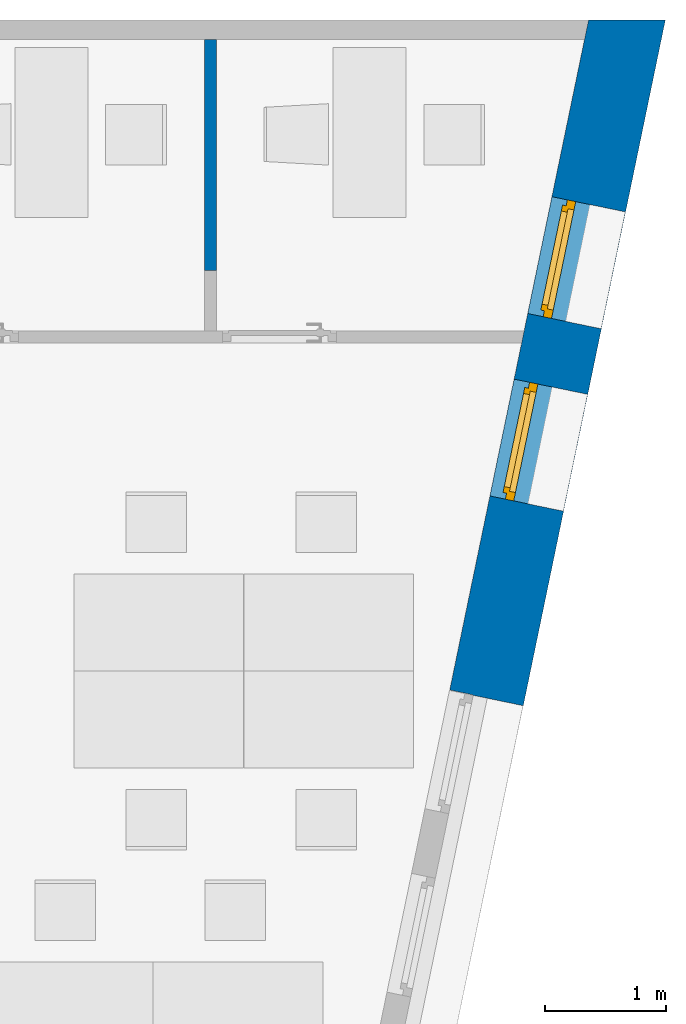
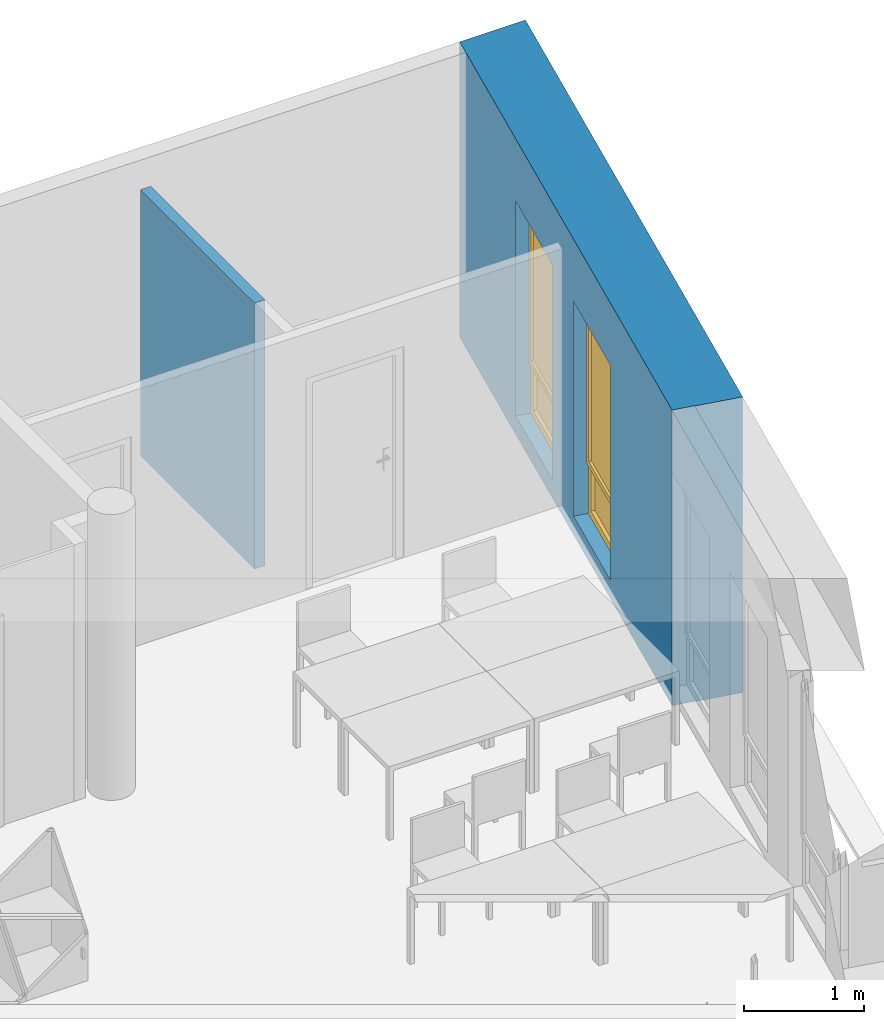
"""IFC4 building model written with IfcOpenShell, lengths in metres."""

from ifc_helpers import new_model, entity, si_unit, converted_unit, derived_unit, frame, frame_2d, origin, origin_with_axes, place, context, subcontext, project, spatial, polyline, rectangle, outline, extrude, closed_shell, open_shell, surface_model, source, transform, mapped, material, layer, layer_set, layer_usage, type_object, element, fill, save


model = new_model("IFC4")

# Units and contexts
model_context = context("Model", 3, precision=1e-05, world=origin())
body_context = subcontext(model_context, "Body", "Model", "MODEL_VIEW")
ifc_project = project(units=[si_unit("LENGTHUNIT", "METRE"), si_unit("AREAUNIT", "SQUARE_METRE"), si_unit("VOLUMEUNIT", "CUBIC_METRE"), si_unit("MASSUNIT", "GRAM", prefix="KILO"), converted_unit("PLANEANGLEUNIT", "DEGREE", entity("IfcPlaneAngleMeasure", 0.0174532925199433), si_unit("PLANEANGLEUNIT", "RADIAN"), dimensions=[0, 0, 0, 0, 0, 0, 0]), derived_unit("THERMALTRANSMITTANCEUNIT", [(si_unit("POWERUNIT", "WATT"), 1), (si_unit("THERMODYNAMICTEMPERATUREUNIT", "KELVIN"), -1), (si_unit("LENGTHUNIT", "METRE"), -2)]), derived_unit("VOLUMETRICFLOWRATEUNIT", [(si_unit("LENGTHUNIT", "METRE"), 3), (converted_unit("TIMEUNIT", "hour", entity("IfcTimeMeasure", 3600.0), si_unit("TIMEUNIT", "SECOND"), dimensions=[0, 0, 1, 0, 0, 0, 0]), -1), (si_unit("LENGTHUNIT", "METRE"), -1)])], contexts=[model_context])

# Building, storeys
building_placement = place(None, origin())
building = spatial("IfcBuilding", under=ifc_project, at=building_placement, Name="HABITATGE PLURIFAMILIAR", CompositionType="ELEMENT")
storey_1_placement = place(building_placement, frame((0.0, 0.0, 18.29)))
storey_1 = spatial("IfcBuildingStorey", under=building, at=storey_1_placement, Name="PLANTA CINQUENA", CompositionType="ELEMENT", Elevation=18.29)
storey_2_placement = place(storey_1_placement, frame((0.0, 0.0, 15.28)))
storey_2 = spatial("IfcBuildingStorey", under=storey_1, at=storey_2_placement, Name="NOU", CompositionType="PARTIAL")

# Wall, openings, doors
ifc_material_1 = material()
ifc_layer_1 = layer(ifc_material_1, 0.620000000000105)
ifc_layer_set_1 = layer_set([ifc_layer_1])
ifc_layer_usage_1 = layer_usage(ifc_layer_set_1, "AXIS2", "POSITIVE", 0.0)
wall_1_placement = place(storey_2_placement, frame((426.308487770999, 22.5756834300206, -15.38), z_axis=(0.0, 0.0, 1.0), x_axis=(0.202870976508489, 0.979205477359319, 0.0)))
wall_1 = element("IfcWall", 1, at=wall_1_placement, inside=storey_2, material=ifc_layer_usage_1, Name="Façana sur-est P5", context=body_context, shape_type="SweptSolid", body=[
    extrude(outline(polyline([(0.123012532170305, -0.593749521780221), (5.89561552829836, -0.593749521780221), (5.76716444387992, 0.0262504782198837), (0.126704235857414, 0.0262504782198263), (0.126733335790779, -0.172150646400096), (0.123036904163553, -0.172151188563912), (0.123012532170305, -0.593749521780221)])), frame((-0.123012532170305, 0.593749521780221, 0.0), z_axis=(0.0, 0.0, 1.0), x_axis=(1.0, 0.0, 0.0)), (0.0, 0.0, 1.0), 3.01),
])
opening_1_placement = place(wall_1_placement, frame((3.17307247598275, 0.0, 0.19), z_axis=(-2.71381483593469e-14, 1.0, 0.0), x_axis=(0.0, 0.0, 1.0)))
opening_1 = element("IfcOpeningElement", 2, at=opening_1_placement, cuts=wall_1, Name="Vano finestra P5", ObjectType="Opening", context=body_context, shape_type="SweptSolid", body=[
    extrude(outline(polyline([(2.19, 0.9835239), (2.19, 0.0), (0.0, 0.0), (0.0, 0.9835239), (2.19, 0.9835239)])), origin_with_axes(), (0.0, 0.0, 1.0), 0.620000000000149),
])
opening_2_placement = place(wall_1_placement, frame((1.63728909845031, 0.0, 0.19), z_axis=(-2.20039040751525e-14, 1.0, 0.0), x_axis=(0.0, 0.0, 1.0)))
opening_2 = element("IfcOpeningElement", 3, at=opening_2_placement, cuts=wall_1, Name="Vano finestra P5", ObjectType="Opening", context=body_context, shape_type="SweptSolid", body=[
    extrude(outline(polyline([(2.19, 0.983523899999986), (2.19, 0.0), (0.0, 0.0), (0.0, 0.983523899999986), (2.19, 0.983523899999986)])), origin_with_axes(), (0.0, 0.0, 1.0), 0.619999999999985),
])
door_type_1 = type_object("IfcDoorType", Name="Finestra P5", OperationType="NOTDEFINED", ParameterTakesPrecedence=False, PredefinedType="DOOR")
shared_shape = source(origin_with_axes(), body_context, "Body", "SurfaceModel", [
    surface_model("IfcShellBasedSurfaceModel", [(0.0, 0.0700000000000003, 2.19), (0.0, 0.07, 0.0), (0.07, 0.07, 0.0), (0.07, 0.0700000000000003, 2.19), (0.0, 0.0, 0.0), (0.0, 0.0, 2.19), (0.07, 0.0, 2.19), (0.07, 0.0, 0.0)], [closed_shell([[[0, 1, 2, 3]], [[4, 5, 6, 7]], [[1, 0, 5, 4]], [[2, 1, 4, 7]], [[3, 2, 7, 6]], [[0, 3, 6, 5]]], orient=[[False], [False], [False], [False], [False], [False]])]),
    surface_model("IfcShellBasedSurfaceModel", [(0.913523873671, 0.0700000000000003, 2.19), (0.913523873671, 0.07, 0.0), (0.983523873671, 0.07, 0.0), (0.983523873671, 0.0700000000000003, 2.19), (0.913523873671, 0.0, 0.0), (0.913523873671, 0.0, 2.19), (0.983523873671, 0.0, 2.19), (0.983523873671, 0.0, 0.0)], [closed_shell([[[0, 1, 2, 3]], [[4, 5, 6, 7]], [[1, 0, 5, 4]], [[2, 1, 4, 7]], [[3, 2, 7, 6]], [[0, 3, 6, 5]]], orient=[[False], [False], [False], [False], [False], [False]])]),
    surface_model("IfcShellBasedSurfaceModel", [(0.07, 0.07, 0.07), (0.07, 0.07, 0.0), (0.913523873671, 0.07, 0.0), (0.913523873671, 0.07, 0.07), (0.07, 0.0, 0.0), (0.07, 0.0, 0.07), (0.913523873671, 0.0, 0.07), (0.913523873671, 0.0, 0.0)], [closed_shell([[[0, 1, 2, 3]], [[4, 5, 6, 7]], [[1, 0, 5, 4]], [[2, 1, 4, 7]], [[3, 2, 7, 6]], [[0, 3, 6, 5]]], orient=[[False], [False], [False], [False], [False], [False]])]),
    surface_model("IfcShellBasedSurfaceModel", [(0.07, 0.0700000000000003, 2.19), (0.07, 0.0700000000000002, 2.12), (0.913523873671, 0.0700000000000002, 2.12), (0.913523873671, 0.0700000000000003, 2.19), (0.07, 0.0, 2.12), (0.07, 0.0, 2.19), (0.913523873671, 0.0, 2.19), (0.913523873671, 0.0, 2.12)], [closed_shell([[[0, 1, 2, 3]], [[4, 5, 6, 7]], [[1, 0, 5, 4]], [[2, 1, 4, 7]], [[3, 2, 7, 6]], [[0, 3, 6, 5]]], orient=[[False], [False], [False], [False], [False], [False]])]),
    surface_model("IfcShellBasedSurfaceModel", [(0.07, 0.035, 0.07), (0.913523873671, 0.035, 0.07), (0.913523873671, 0.0350000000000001, 0.57), (0.07, 0.0350000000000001, 0.57)], [open_shell([[[0, 1, 2, 3]]], orient=[[False]])]),
    surface_model("IfcShellBasedSurfaceModel", [(0.05, 0.1, 2.14), (0.05, 0.1, 0.551), (0.1, 0.1, 0.551), (0.1, 0.1, 2.14), (0.05, 0.0500000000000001, 0.551), (0.05, 0.0500000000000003, 2.14), (0.1, 0.0500000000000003, 2.14), (0.1, 0.0500000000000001, 0.551)], [closed_shell([[[0, 1, 2, 3]], [[4, 5, 6, 7]], [[1, 0, 5, 4]], [[2, 1, 4, 7]], [[3, 2, 7, 6]], [[0, 3, 6, 5]]], orient=[[False], [False], [False], [False], [False], [False]])]),
    surface_model("IfcShellBasedSurfaceModel", [(0.883523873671, 0.1, 2.14), (0.883523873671, 0.1, 0.551), (0.933523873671, 0.1, 0.551), (0.933523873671, 0.1, 2.14), (0.883523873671, 0.0500000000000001, 0.551), (0.883523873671, 0.0500000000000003, 2.14), (0.933523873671, 0.0500000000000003, 2.14), (0.933523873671, 0.0500000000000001, 0.551)], [closed_shell([[[0, 1, 2, 3]], [[4, 5, 6, 7]], [[1, 0, 5, 4]], [[2, 1, 4, 7]], [[3, 2, 7, 6]], [[0, 3, 6, 5]]], orient=[[False], [False], [False], [False], [False], [False]])]),
    surface_model("IfcShellBasedSurfaceModel", [(0.1, 0.1, 0.601), (0.1, 0.1, 0.551), (0.883523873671, 0.1, 0.551), (0.883523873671, 0.1, 0.601), (0.1, 0.0500000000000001, 0.551), (0.1, 0.0500000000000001, 0.601), (0.883523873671, 0.0500000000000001, 0.601), (0.883523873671, 0.0500000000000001, 0.551)], [closed_shell([[[0, 1, 2, 3]], [[4, 5, 6, 7]], [[1, 0, 5, 4]], [[2, 1, 4, 7]], [[3, 2, 7, 6]], [[0, 3, 6, 5]]], orient=[[False], [False], [False], [False], [False], [False]])]),
    surface_model("IfcShellBasedSurfaceModel", [(0.1, 0.1, 2.14), (0.1, 0.1, 2.09), (0.883523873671, 0.1, 2.09), (0.883523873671, 0.1, 2.14), (0.1, 0.0500000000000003, 2.09), (0.1, 0.0500000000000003, 2.14), (0.883523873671, 0.0500000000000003, 2.14), (0.883523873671, 0.0500000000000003, 2.09)], [closed_shell([[[0, 1, 2, 3]], [[4, 5, 6, 7]], [[1, 0, 5, 4]], [[2, 1, 4, 7]], [[3, 2, 7, 6]], [[0, 3, 6, 5]]], orient=[[False], [False], [False], [False], [False], [False]])]),
    surface_model("IfcShellBasedSurfaceModel", [(0.1, 0.0750000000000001, 0.601), (0.883523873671, 0.0750000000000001, 0.601), (0.883523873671, 0.0750000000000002, 2.09), (0.1, 0.0750000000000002, 2.09)], [open_shell([[[0, 1, 2, 3]]], orient=[[False]])]),
])
door_1_placement = place(opening_1_placement, frame((0.0, 0.0, 0.419999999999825), z_axis=(1.0, 0.0, 0.0), x_axis=(0.0, 1.0000000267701, -5.76205749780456e-14)))
door_1 = element("IfcDoor", 4, at=door_1_placement, inside=storey_2, type_object=door_type_1, Name="Finestra P5", OverallHeight=2.19, OverallWidth=0.98352, context=body_context, shape_type="MappedRepresentation", body=[
    mapped(shared_shape, transform((0.0, 0.0, 0.0), x_axis=(1.0, 0.0, 0.0), y_axis=(0.0, 1.0, 0.0), z_axis=(0.0, 0.0, 1.0), scale=1.0000000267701)),
])
fill(opening_1, door_1)
door_type_2 = type_object("IfcDoorType", Name="Finestra P5", OperationType="NOTDEFINED", ParameterTakesPrecedence=False, PredefinedType="DOOR")
door_2_placement = place(opening_2_placement, frame((0.0, 0.0, 0.419999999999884), z_axis=(1.0, 0.0, 0.0), x_axis=(0.0, 1.00000002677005, -5.55111512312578e-16)))
door_2 = element("IfcDoor", 5, at=door_2_placement, inside=storey_2, type_object=door_type_2, Name="Finestra P5", OverallHeight=2.19, OverallWidth=0.98352, context=body_context, shape_type="MappedRepresentation", body=[
    mapped(shared_shape, transform((0.0, 0.0, 0.0), x_axis=(1.0, 0.0, 0.0), y_axis=(0.0, 1.0, 0.0), z_axis=(0.0, 0.0, 1.0), scale=1.00000002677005)),
])
fill(opening_2, door_2)

# Wall
ifc_material_2 = material()
ifc_layer_2 = layer(ifc_material_2, 0.1)
ifc_layer_set_2 = layer_set([ifc_layer_2])
ifc_layer_usage_2 = layer_usage(ifc_layer_set_2, "AXIS2", "POSITIVE", 0.0)
wall_2_placement = place(storey_2_placement, frame((423.679675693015, 28.06824790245, -15.38), z_axis=(0.0, 0.0, 1.0), x_axis=(0.0, -1.0, 0.0)))
element("IfcWall", 6, at=wall_2_placement, inside=storey_2, material=ifc_layer_usage_2, Name="Evans P5", context=body_context, shape_type="SweptSolid", body=[
    extrude(rectangle(XDim=1.90412098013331, YDim=0.1, at=frame_2d((0.952060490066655, 0.05), x_axis=(1.0, 0.0))), origin_with_axes(), (0.0, 0.0, 1.0), 2.71),
])

save(model, "model.ifc")
